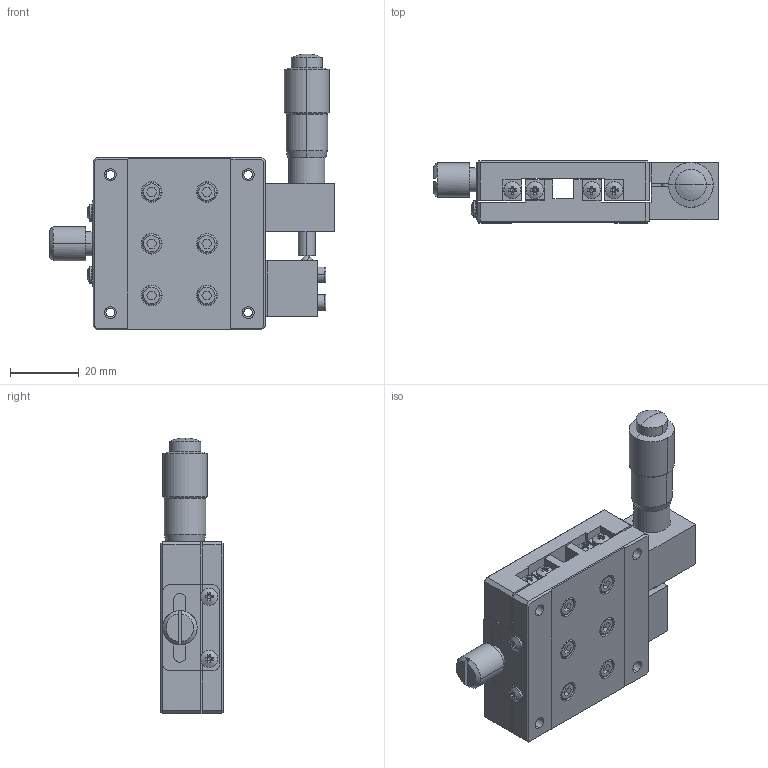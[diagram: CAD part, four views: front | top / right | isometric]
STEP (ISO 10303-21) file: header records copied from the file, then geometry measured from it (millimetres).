
FILE_DESCRIPTION (( 'STEP AP203' ), '1' );
FILE_NAME ('LX50-R.STEP', '2013-12-20T09:46:59', ( 'pengyu' ), ( '' ), 'SwSTEP 2.0', 'SolidWorks 2011', '' );
FILE_SCHEMA (( 'CONFIG_CONTROL_DESIGN' ));
Length unit declared in the file: millimetre
Products named in the file (4): LX50-R; MT13-1-1; L50R-2; L50R-1
Assembly tree (3 placements, depth 2):
  LX50-R
    MT13-1-1
    L50R-2
    L50R-1
Bounding box: 82.6 x 18 x 80 mm (x, y, z)
Volume: 49747.6 mm3; surface area: 26139.8 mm2
Topology: 3 solids, 7 shells, 760 faces, 1893 edges, 1201 vertices
Faces by surface type: plane 451, cylinder 163, cone 94, bspline 50, torus 2
Entity records: 23746 total; most frequent: CARTESIAN_POINT 5380, ORIENTED_EDGE 3734, DIRECTION 3720, EDGE_CURVE 1867, AXIS2_PLACEMENT_3D 1345, VERTEX_POINT 1201, LINE 1030, VECTOR 1030
